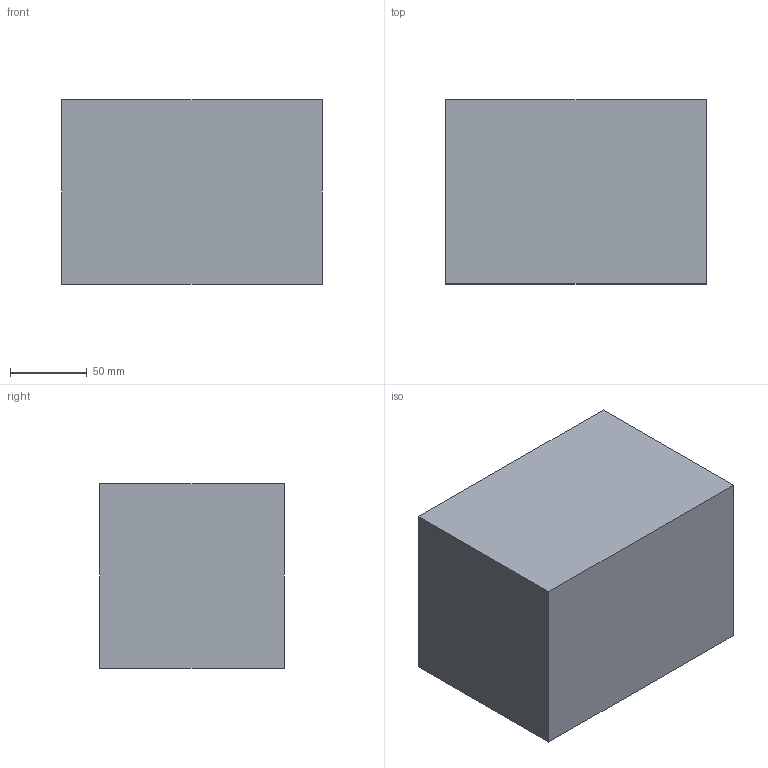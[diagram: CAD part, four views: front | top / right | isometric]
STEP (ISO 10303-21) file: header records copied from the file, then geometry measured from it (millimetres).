
FILE_DESCRIPTION(('Open CASCADE Model'),'2;1');
FILE_NAME('Open CASCADE Shape Model','2026-09-19T12:55:25',('Author'),( 'Open CASCADE'),'Open CASCADE STEP processor 7.9','Open CASCADE 7.9' ,'Unknown');
FILE_SCHEMA(('AUTOMOTIVE_DESIGN { 1 0 10303 214 1 1 1 1 }'));
Length unit declared in the file: millimetre
Products named in the file (1): Open CASCADE STEP translator 7.9 472
Bounding box: 170 x 120 x 120 mm (x, y, z)
Volume: 2448000 mm3; surface area: 110400 mm2
Topology: 1 solids, 1 shells, 6 faces, 12 edges, 8 vertices
Faces by surface type: plane 6
Entity records: 322 total; most frequent: CARTESIAN_POINT 51, DIRECTION 50, LINE 36, VECTOR 36, ORIENTED_EDGE 24, PCURVE 24, DEFINITIONAL_REPRESENTATION 24, EDGE_CURVE 12
